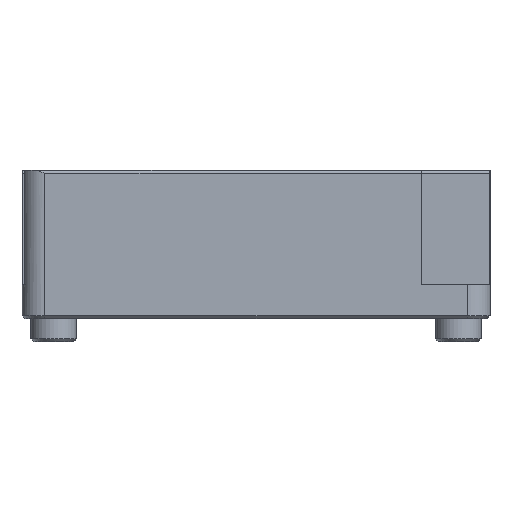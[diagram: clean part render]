
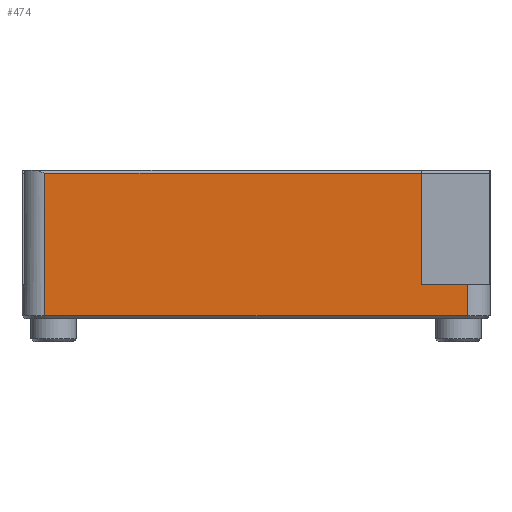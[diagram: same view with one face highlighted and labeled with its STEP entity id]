
A CAD part, front view. The second image highlights one B-rep face of the part: STEP entity #474.
In plain terms, the highlighted planar face has unit normal (0, -1, 0) as drawn and (0, 1, 0) by its records, which use the part's own axes.
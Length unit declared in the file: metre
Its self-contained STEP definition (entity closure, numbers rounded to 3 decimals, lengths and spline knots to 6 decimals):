
#474=ADVANCED_FACE('1:51',(#948),#949,.T.);
#948=FACE_OUTER_BOUND('',#1419,.T.);
#949=PLANE('',#1420);
#1419=EDGE_LOOP('',(#2626,#2627,#2628,#2629,#2630,#2631));
#1420=AXIS2_PLACEMENT_3D('',#2632,#2633,#2634);
#2626=ORIENTED_EDGE('',*,*,#3076,.F.);
#2627=ORIENTED_EDGE('',*,*,#3005,.T.);
#2628=ORIENTED_EDGE('',*,*,#2774,.F.);
#2629=ORIENTED_EDGE('',*,*,#3240,.F.);
#2630=ORIENTED_EDGE('',*,*,#3212,.F.);
#2631=ORIENTED_EDGE('',*,*,#3157,.F.);
#2632=CARTESIAN_POINT('',(0.0,0.0185,0.0));
#2633=DIRECTION('',(0.0,1.0,0.0));
#2634=DIRECTION('',(1.0,-0.0,0.0));
#2774=EDGE_CURVE('1:270',#3289,#3291,#3292,.T.);
#3005=EDGE_CURVE('17:23188',#3671,#3291,#3672,.F.);
#3076=EDGE_CURVE('1:102154',#3671,#3781,#3782,.F.);
#3157=EDGE_CURVE('1:101138',#3781,#3888,#3889,.T.);
#3212=EDGE_CURVE('1:147',#3888,#3951,#3952,.F.);
#3240=EDGE_CURVE('1:207',#3951,#3289,#3991,.T.);
#3289=VERTEX_POINT('',#4057);
#3291=VERTEX_POINT('',#4059);
#3292=LINE('',#4060,#4061);
#3671=VERTEX_POINT('',#4618);
#3672=LINE('',#4619,#4620);
#3781=VERTEX_POINT('',#4797);
#3782=LINE('',#4798,#4799);
#3888=VERTEX_POINT('',#4957);
#3889=LINE('',#4958,#4959);
#3951=VERTEX_POINT('',#5038);
#3952=LINE('',#5039,#5040);
#3991=LINE('',#5088,#5089);
#4057=CARTESIAN_POINT('',(0.0185,0.0185,0.00025));
#4059=CARTESIAN_POINT('',(0.0185,0.0185,0.01275));
#4060=CARTESIAN_POINT('',(0.0185,0.0185,0.0));
#4061=VECTOR('',#5153,1.0);
#4618=CARTESIAN_POINT('',(-0.0145,0.0185,0.01275));
#4619=CARTESIAN_POINT('',(0.0,0.0185,0.01275));
#4620=VECTOR('',#5411,1.0);
#4797=CARTESIAN_POINT('',(-0.0145,0.0185,0.003));
#4798=CARTESIAN_POINT('',(-0.0145,0.0185,0.0));
#4799=VECTOR('',#5474,1.0);
#4957=CARTESIAN_POINT('',(-0.0185,0.0185,0.003));
#4958=CARTESIAN_POINT('',(0.0,0.0185,0.003));
#4959=VECTOR('',#5575,1.0);
#5038=CARTESIAN_POINT('',(-0.0185,0.0185,0.00025));
#5039=CARTESIAN_POINT('',(-0.0185,0.0185,0.0));
#5040=VECTOR('',#5626,1.0);
#5088=CARTESIAN_POINT('',(0.0,0.0185,0.00025));
#5089=VECTOR('',#5660,1.0);
#5153=DIRECTION('',(-0.0,-0.0,1.0));
#5411=DIRECTION('',(-1.0,0.0,0.0));
#5474=DIRECTION('',(0.0,0.0,1.0));
#5575=DIRECTION('',(-1.0,0.0,0.0));
#5626=DIRECTION('',(0.0,-0.0,1.0));
#5660=DIRECTION('',(1.0,-0.0,0.0));
